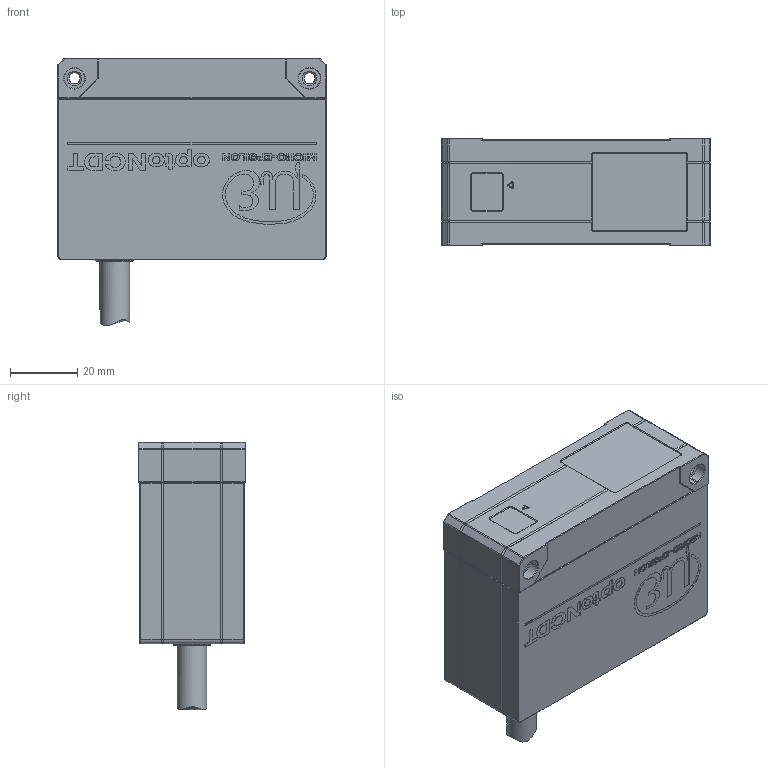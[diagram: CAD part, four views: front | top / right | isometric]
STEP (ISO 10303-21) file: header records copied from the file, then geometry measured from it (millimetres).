
FILE_DESCRIPTION (( 'STEP AP214' ), '1' );
FILE_NAME ('ILD5500-100_Sensormodell.STEP', '2024-11-27T08:17:17', ( '' ), ( '' ), 'SwSTEP 2.0', 'SolidWorks 2022', '' );
FILE_SCHEMA (( 'AUTOMOTIVE_DESIGN' ));
Length unit declared in the file: millimetre
Products named in the file (1): ILD5500-100_Sensormodell
Bounding box: 80 x 32 x 79.66 mm (x, y, z)
Volume: 148035.1 mm3; surface area: 21461.7 mm2
Topology: 1 solids, 4 shells, 1660 faces, 4401 edges, 2867 vertices
Faces by surface type: plane 805, bspline 681, cylinder 108, cone 60, torus 6
Full cylindrical faces by diameter (mm): 0.7 x1, 2.4 x2, 3.3 x2, 3.5 x1, 6 x2, 8.8 x1, 10 x2, 10.5 x2
Entity records: 80080 total; most frequent: CARTESIAN_POINT 25634, ORIENTED_EDGE 8684, DIRECTION 5184, EDGE_CURVE 4342, VERTEX_POINT 2848, LINE 2698, VECTOR 2698, EDGE_LOOP 1822
